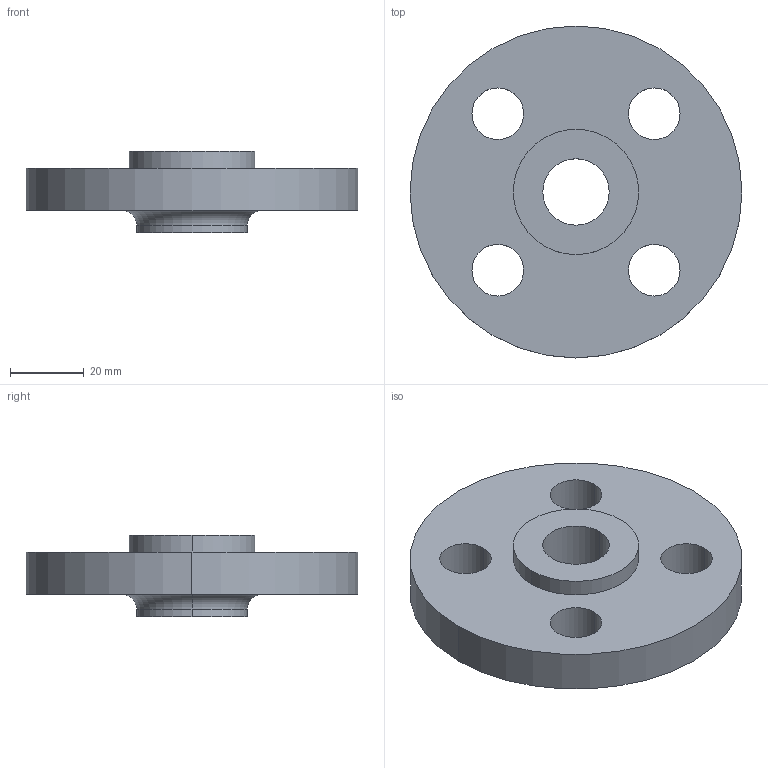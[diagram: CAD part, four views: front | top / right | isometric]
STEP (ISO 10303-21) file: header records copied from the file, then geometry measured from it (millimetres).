
FILE_DESCRIPTION (( 'STEP AP214' ), '1' );
FILE_NAME ('PN40 DN10 Type 12 - Type E Face.STEP', '2018-12-29T04:01:15', ( '' ), ( '' ), 'SwSTEP 2.0', 'SolidWorks 2019', '' );
FILE_SCHEMA (( 'AUTOMOTIVE_DESIGN' ));
Length unit declared in the file: millimetre
Products named in the file (1): PN40 DN10 Type 12 - Type E Face
Bounding box: 90 x 90 x 22 mm (x, y, z)
Volume: 69150.1 mm3; surface area: 18393.3 mm2
Topology: 1 solids, 1 shells, 22 faces, 52 edges, 34 vertices
Faces by surface type: cylinder 16, plane 4, torus 2
Entity records: 710 total; most frequent: DIRECTION 134, CARTESIAN_POINT 109, ORIENTED_EDGE 104, AXIS2_PLACEMENT_3D 59, EDGE_CURVE 52, CIRCLE 36, VERTEX_POINT 34, EDGE_LOOP 34
